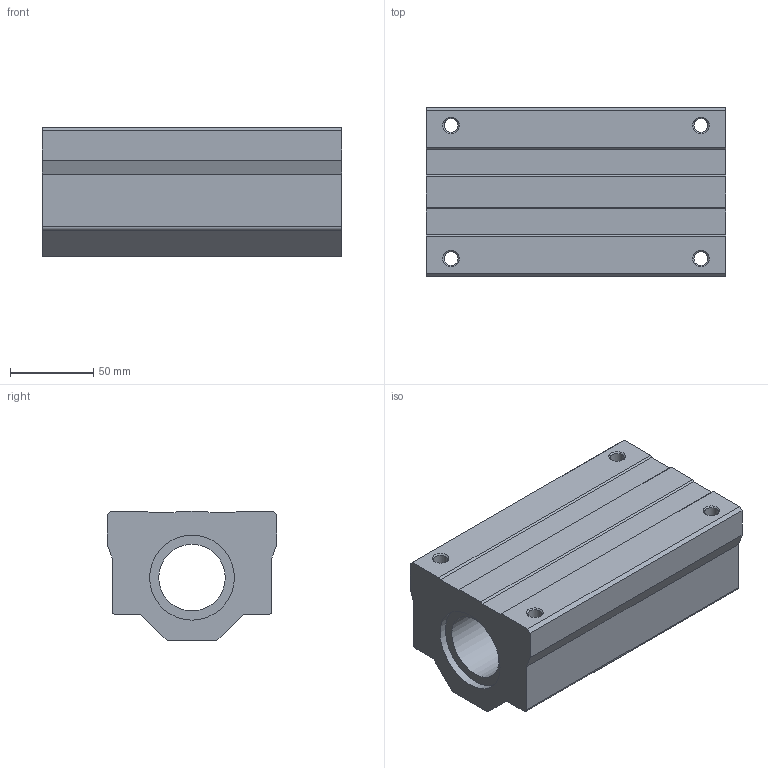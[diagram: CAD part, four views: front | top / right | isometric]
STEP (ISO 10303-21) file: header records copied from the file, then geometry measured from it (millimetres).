
FILE_DESCRIPTION( ( 'Unknown' ), '1' );
FILE_NAME( 'D:/累诀/己绕皋墨飘肺葱胶/11-04-06_档搁累己/01_府聪绢何教/SC W/SC 40W.stp', 'Unknown', ( 'Unknown' ), ( 'Unknown' ), 'PSStep 11.0', 'Unknown', ' ' );
FILE_SCHEMA( ( 'AUTOMOTIVE_DESIGN { 1 0 10303 214 1 1 1 1 }' ) );
Length unit declared in the file: millimetre
Products named in the file (1): 1
Bounding box: 180 x 102 x 78 mm (x, y, z)
Volume: 975929.6 mm3; surface area: 100147.8 mm2
Topology: 1 solids, 1 shells, 43 faces, 122 edges, 83 vertices
Faces by surface type: plane 26, cylinder 13, cone 4
Full cylindrical faces by diameter (mm): 8.376 x8, 40 x1, 51 x2
Entity records: 1590 total; most frequent: CARTESIAN_POINT 208, DIRECTION 208, ORIENTED_EDGE 188, EDGE_CURVE 94, AXIS2_PLACEMENT_3D 70, EDGE_LOOP 70, VERTEX_POINT 70, LINE 68
